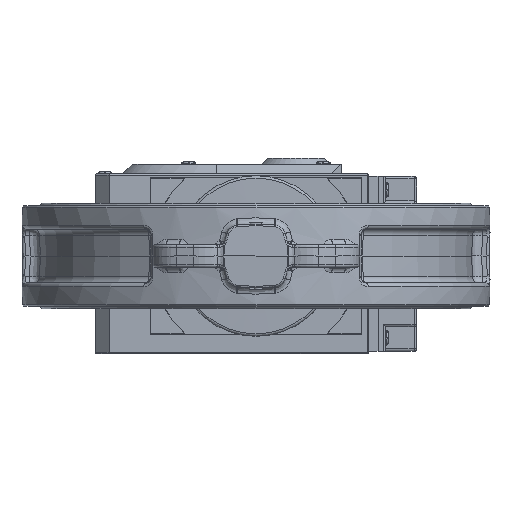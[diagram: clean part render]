
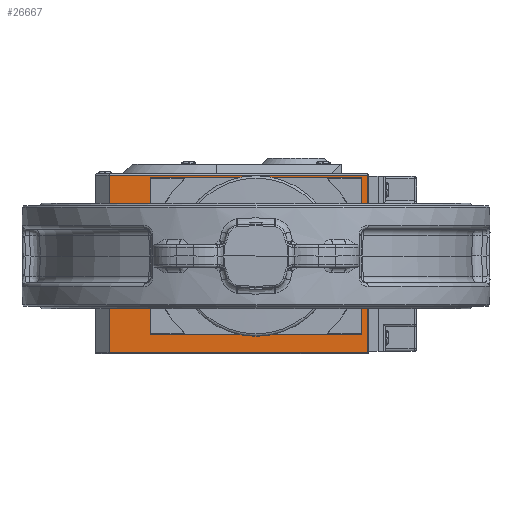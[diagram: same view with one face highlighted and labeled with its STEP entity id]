
A CAD part, front view. The second image highlights one B-rep face of the part: STEP entity #26667.
In plain terms, the highlighted planar face has unit normal (0, -1, 0).
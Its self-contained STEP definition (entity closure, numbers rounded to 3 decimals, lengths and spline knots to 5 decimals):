
#1568=PLANE('',#29294);
#1814=FACE_BOUND('',#6716,.T.);
#4986=FACE_OUTER_BOUND('',#6715,.T.);
#6715=EDGE_LOOP('',(#23672,#23673,#23674,#23675));
#6716=EDGE_LOOP('',(#23676,#23677,#23678,#23679,#23680,#23681,#23682,#23683));
#7857=LINE('',#105953,#9032);
#7858=LINE('',#105955,#9033);
#7859=LINE('',#105957,#9034);
#7860=LINE('',#105958,#9035);
#7861=LINE('',#105959,#9036);
#7862=LINE('',#105960,#9037);
#7863=LINE('',#105961,#9038);
#7864=LINE('',#105962,#9039);
#9032=VECTOR('',#34743,0.14152);
#9033=VECTOR('',#34744,0.20573);
#9034=VECTOR('',#34745,0.14152);
#9035=VECTOR('',#34746,0.20573);
#9036=VECTOR('',#34747,0.166);
#9037=VECTOR('',#34748,0.12304);
#9038=VECTOR('',#34749,0.166);
#9039=VECTOR('',#34750,0.12304);
#10419=CIRCLE('',#29120,0.001);
#10420=CIRCLE('',#29124,0.001);
#10421=CIRCLE('',#29128,0.001);
#10422=CIRCLE('',#29133,0.001);
#12520=VERTEX_POINT('',#104694);
#12521=VERTEX_POINT('',#104696);
#12527=VERTEX_POINT('',#104712);
#12528=VERTEX_POINT('',#104714);
#12537=VERTEX_POINT('',#104736);
#12538=VERTEX_POINT('',#104738);
#12550=VERTEX_POINT('',#104768);
#12551=VERTEX_POINT('',#104770);
#12811=VERTEX_POINT('',#105951);
#12812=VERTEX_POINT('',#105952);
#12813=VERTEX_POINT('',#105954);
#12814=VERTEX_POINT('',#105956);
#16206=EDGE_CURVE('',#12521,#12520,#10419,.F.);
#16215=EDGE_CURVE('',#12528,#12527,#10420,.F.);
#16227=EDGE_CURVE('',#12538,#12537,#10421,.F.);
#16243=EDGE_CURVE('',#12551,#12550,#10422,.F.);
#16524=EDGE_CURVE('',#12811,#12812,#7857,.T.);
#16525=EDGE_CURVE('',#12812,#12813,#7858,.T.);
#16526=EDGE_CURVE('',#12813,#12814,#7859,.T.);
#16527=EDGE_CURVE('',#12814,#12811,#7860,.F.);
#16528=EDGE_CURVE('',#12537,#12528,#7861,.T.);
#16529=EDGE_CURVE('',#12527,#12521,#7862,.T.);
#16530=EDGE_CURVE('',#12520,#12551,#7863,.T.);
#16531=EDGE_CURVE('',#12550,#12538,#7864,.T.);
#23672=ORIENTED_EDGE('',*,*,#16524,.T.);
#23673=ORIENTED_EDGE('',*,*,#16525,.T.);
#23674=ORIENTED_EDGE('',*,*,#16526,.T.);
#23675=ORIENTED_EDGE('',*,*,#16527,.T.);
#23676=ORIENTED_EDGE('',*,*,#16528,.T.);
#23677=ORIENTED_EDGE('',*,*,#16215,.T.);
#23678=ORIENTED_EDGE('',*,*,#16529,.T.);
#23679=ORIENTED_EDGE('',*,*,#16206,.T.);
#23680=ORIENTED_EDGE('',*,*,#16530,.T.);
#23681=ORIENTED_EDGE('',*,*,#16243,.T.);
#23682=ORIENTED_EDGE('',*,*,#16531,.T.);
#23683=ORIENTED_EDGE('',*,*,#16227,.T.);
#26667=ADVANCED_FACE('',(#4986,#1814),#1568,.T.);
#29120=AXIS2_PLACEMENT_3D('',#104697,#34208,#34209);
#29124=AXIS2_PLACEMENT_3D('',#104715,#34223,#34224);
#29128=AXIS2_PLACEMENT_3D('',#104739,#34241,#34242);
#29133=AXIS2_PLACEMENT_3D('',#104771,#34265,#34266);
#29294=AXIS2_PLACEMENT_3D('',#105950,#34741,#34742);
#34208=DIRECTION('center_axis',(0.,-1.,0.));
#34209=DIRECTION('ref_axis',(0.,0.,-1.));
#34223=DIRECTION('center_axis',(0.,-1.,0.));
#34224=DIRECTION('ref_axis',(0.,0.,-1.));
#34241=DIRECTION('center_axis',(0.,-1.,0.));
#34242=DIRECTION('ref_axis',(0.,0.,-1.));
#34265=DIRECTION('center_axis',(0.,-1.,0.));
#34266=DIRECTION('ref_axis',(0.,0.,-1.));
#34741=DIRECTION('center_axis',(0.,-1.,0.));
#34742=DIRECTION('ref_axis',(0.,0.,-1.));
#34743=DIRECTION('',(0.,0.,-1.));
#34744=DIRECTION('',(1.,0.,0.));
#34745=DIRECTION('',(0.,0.,1.));
#34746=DIRECTION('',(1.,0.,0.));
#34747=DIRECTION('',(-1.,0.,0.));
#34748=DIRECTION('',(0.,0.,1.));
#34749=DIRECTION('',(1.,0.,0.));
#34750=DIRECTION('',(0.,0.,-1.));
#104694=CARTESIAN_POINT('',(-0.083,-0.05438,0.06252));
#104696=CARTESIAN_POINT('',(-0.084,-0.05438,0.06152));
#104697=CARTESIAN_POINT('Origin',(-0.083,-0.05438,0.06152));
#104712=CARTESIAN_POINT('',(-0.084,-0.05438,-0.06152));
#104714=CARTESIAN_POINT('',(-0.083,-0.05438,-0.06252));
#104715=CARTESIAN_POINT('Origin',(-0.083,-0.05438,-0.06152));
#104736=CARTESIAN_POINT('',(0.083,-0.05438,-0.06252));
#104738=CARTESIAN_POINT('',(0.084,-0.05438,-0.06152));
#104739=CARTESIAN_POINT('Origin',(0.083,-0.05438,-0.06152));
#104768=CARTESIAN_POINT('',(0.084,-0.05438,0.06152));
#104770=CARTESIAN_POINT('',(0.083,-0.05438,0.06252));
#104771=CARTESIAN_POINT('Origin',(0.083,-0.05438,0.06152));
#105950=CARTESIAN_POINT('Origin',(-0.128,-0.05438,-0.078));
#105951=CARTESIAN_POINT('',(-0.11713,-0.05438,0.06452));
#105952=CARTESIAN_POINT('',(-0.11713,-0.05438,-0.077));
#105953=CARTESIAN_POINT('',(-0.11713,-0.05438,0.06452));
#105954=CARTESIAN_POINT('',(0.0886,-0.05438,-0.077));
#105955=CARTESIAN_POINT('',(-0.11713,-0.05438,-0.077));
#105956=CARTESIAN_POINT('',(0.0886,-0.05438,0.06452));
#105957=CARTESIAN_POINT('',(0.0886,-0.05438,-0.077));
#105958=CARTESIAN_POINT('',(-0.11713,-0.05438,0.06452));
#105959=CARTESIAN_POINT('',(0.083,-0.05438,-0.06252));
#105960=CARTESIAN_POINT('',(-0.084,-0.05438,-0.06152));
#105961=CARTESIAN_POINT('',(-0.083,-0.05438,0.06252));
#105962=CARTESIAN_POINT('',(0.084,-0.05438,0.06152));
